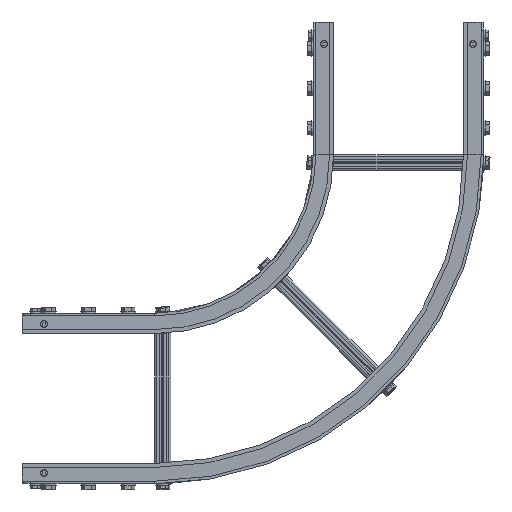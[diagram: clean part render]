
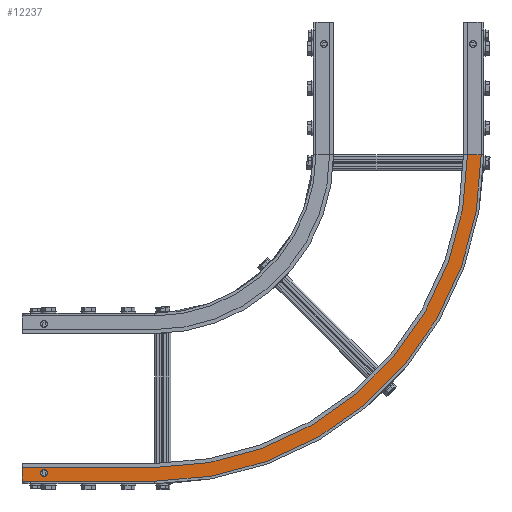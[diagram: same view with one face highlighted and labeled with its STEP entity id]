
A CAD part, front view. The second image highlights one B-rep face of the part: STEP entity #12237.
In plain terms, the highlighted planar face has unit normal (0, -1, 0) as drawn and (0, 1, 0) by its records, which use the part's own axes.
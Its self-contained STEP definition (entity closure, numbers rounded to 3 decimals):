
#66 = VECTOR ( 'NONE', #12534, 1000. ) ;
#82 = ORIENTED_EDGE ( 'NONE', *, *, #3296, .F. ) ;
#368 = CARTESIAN_POINT ( 'NONE',  ( 5., 20., 0. ) ) ;
#585 = DIRECTION ( 'NONE',  ( 0., 1., 0. ) ) ;
#864 = ORIENTED_EDGE ( 'NONE', *, *, #16782, .T. ) ;
#1373 = VERTEX_POINT ( 'NONE', #6319 ) ;
#1749 = DIRECTION ( 'NONE',  ( 0., 0., -1. ) ) ;
#1858 = VECTOR ( 'NONE', #16328, 1000. ) ;
#2733 = LINE ( 'NONE', #18838, #12664 ) ;
#2780 = CIRCLE ( 'NONE', #16547, 4.1 ) ;
#3090 = DIRECTION ( 'NONE',  ( 0., 0., 1. ) ) ;
#3296 = EDGE_CURVE ( 'NONE', #10270, #3690, #9938, .T. ) ;
#3345 = DIRECTION ( 'NONE',  ( 0., -1., 0. ) ) ;
#3670 = CIRCLE ( 'NONE', #11599, 354. ) ;
#3690 = VERTEX_POINT ( 'NONE', #13969 ) ;
#4549 = CARTESIAN_POINT ( 'NONE',  ( 5., 20., 150. ) ) ;
#4557 = EDGE_CURVE ( 'NONE', #10817, #14841, #7887, .T. ) ;
#4755 = DIRECTION ( 'NONE',  ( 0., 1., 0. ) ) ;
#4883 = EDGE_CURVE ( 'NONE', #15974, #10270, #14972, .T. ) ;
#5209 = CARTESIAN_POINT ( 'NONE',  ( -364.5, 20., -369.5 ) ) ;
#5332 = CARTESIAN_POINT ( 'NONE',  ( 5., 20., 0. ) ) ;
#5433 = EDGE_LOOP ( 'NONE', ( #8213, #864, #82, #17406, #10825, #14805 ) ) ;
#6319 = CARTESIAN_POINT ( 'NONE',  ( -10.5, 20., 0. ) ) ;
#6445 = VECTOR ( 'NONE', #3090, 1000. ) ;
#6695 = DIRECTION ( 'NONE',  ( 0., 1., 0. ) ) ;
#6820 = ORIENTED_EDGE ( 'NONE', *, *, #12881, .F. ) ;
#6881 = ORIENTED_EDGE ( 'NONE', *, *, #4557, .F. ) ;
#7115 = DIRECTION ( 'NONE',  ( 0., 1., 0. ) ) ;
#7697 = EDGE_CURVE ( 'NONE', #1373, #17704, #3670, .T. ) ;
#7887 = CIRCLE ( 'NONE', #17870, 4.1 ) ;
#8213 = ORIENTED_EDGE ( 'NONE', *, *, #7697, .F. ) ;
#8446 = AXIS2_PLACEMENT_3D ( 'NONE', #368, #3345, #1749 ) ;
#8593 = DIRECTION ( 'NONE',  ( 0., 0., 1. ) ) ;
#8944 = EDGE_CURVE ( 'NONE', #13769, #17704, #2733, .T. ) ;
#9663 = CARTESIAN_POINT ( 'NONE',  ( -4.25, 20., 125. ) ) ;
#9938 = LINE ( 'NONE', #13496, #1858 ) ;
#10270 = VERTEX_POINT ( 'NONE', #4549 ) ;
#10817 = VERTEX_POINT ( 'NONE', #16900 ) ;
#10825 = ORIENTED_EDGE ( 'NONE', *, *, #14739, .T. ) ;
#11599 = AXIS2_PLACEMENT_3D ( 'NONE', #15248, #4755, #12157 ) ;
#11616 = CARTESIAN_POINT ( 'NONE',  ( -364.5, 20., 0. ) ) ;
#12148 = CARTESIAN_POINT ( 'NONE',  ( 5., 20., 0. ) ) ;
#12157 = DIRECTION ( 'NONE',  ( 1., 0., 0. ) ) ;
#12229 = PLANE ( 'NONE',  #8446 ) ;
#12237 = ADVANCED_FACE ( 'NONE', ( #17688, #17444 ), #12229, .F. ) ;
#12534 = DIRECTION ( 'NONE',  ( 0., 0., 1. ) ) ;
#12664 = VECTOR ( 'NONE', #8593, 1000. ) ;
#12881 = EDGE_CURVE ( 'NONE', #14841, #10817, #2780, .T. ) ;
#13496 = CARTESIAN_POINT ( 'NONE',  ( 5., 20., 150. ) ) ;
#13769 = VERTEX_POINT ( 'NONE', #5209 ) ;
#13828 = CIRCLE ( 'NONE', #19455, 369.5 ) ;
#13969 = CARTESIAN_POINT ( 'NONE',  ( -10.5, 20., 150. ) ) ;
#14086 = DIRECTION ( 'NONE',  ( 0., 0., 1. ) ) ;
#14270 = LINE ( 'NONE', #18524, #66 ) ;
#14739 = EDGE_CURVE ( 'NONE', #15974, #13769, #13828, .T. ) ;
#14767 = CARTESIAN_POINT ( 'NONE',  ( -4.25, 20., 120.9 ) ) ;
#14805 = ORIENTED_EDGE ( 'NONE', *, *, #8944, .T. ) ;
#14841 = VERTEX_POINT ( 'NONE', #14767 ) ;
#14972 = LINE ( 'NONE', #12148, #6445 ) ;
#15248 = CARTESIAN_POINT ( 'NONE',  ( -364.5, 20., 0. ) ) ;
#15639 = CARTESIAN_POINT ( 'NONE',  ( -364.5, 20., -354. ) ) ;
#15741 = CARTESIAN_POINT ( 'NONE',  ( -4.25, 20., 125. ) ) ;
#15974 = VERTEX_POINT ( 'NONE', #5332 ) ;
#16328 = DIRECTION ( 'NONE',  ( -1., 0., 0. ) ) ;
#16547 = AXIS2_PLACEMENT_3D ( 'NONE', #15741, #6695, #17255 ) ;
#16782 = EDGE_CURVE ( 'NONE', #1373, #3690, #14270, .T. ) ;
#16889 = EDGE_LOOP ( 'NONE', ( #6881, #6820 ) ) ;
#16900 = CARTESIAN_POINT ( 'NONE',  ( -4.25, 20., 129.1 ) ) ;
#17255 = DIRECTION ( 'NONE',  ( 0., 0., 1. ) ) ;
#17406 = ORIENTED_EDGE ( 'NONE', *, *, #4883, .F. ) ;
#17444 = FACE_OUTER_BOUND ( 'NONE', #5433, .T. ) ;
#17688 = FACE_BOUND ( 'NONE', #16889, .T. ) ;
#17704 = VERTEX_POINT ( 'NONE', #15639 ) ;
#17870 = AXIS2_PLACEMENT_3D ( 'NONE', #9663, #585, #14086 ) ;
#18524 = CARTESIAN_POINT ( 'NONE',  ( -10.5, 20., 0. ) ) ;
#18838 = CARTESIAN_POINT ( 'NONE',  ( -364.5, 20., -369.5 ) ) ;
#19129 = DIRECTION ( 'NONE',  ( 1., 0., 0. ) ) ;
#19455 = AXIS2_PLACEMENT_3D ( 'NONE', #11616, #7115, #19129 ) ;
